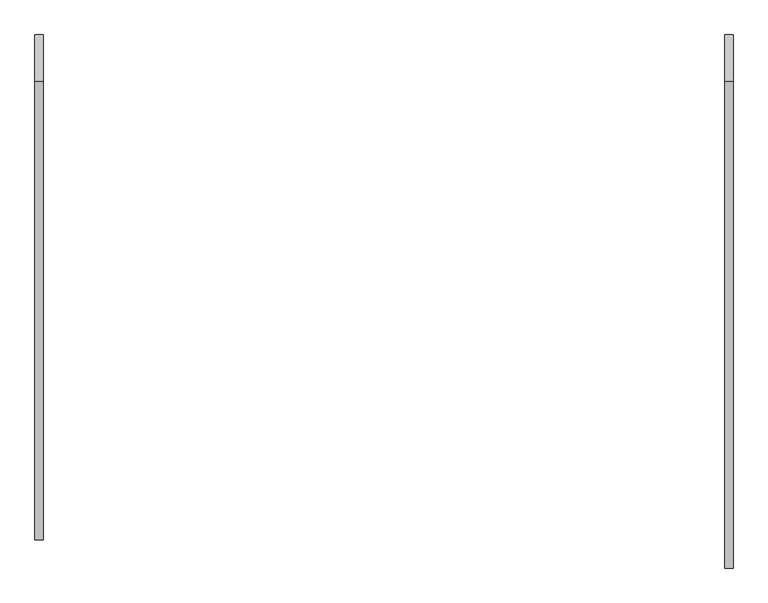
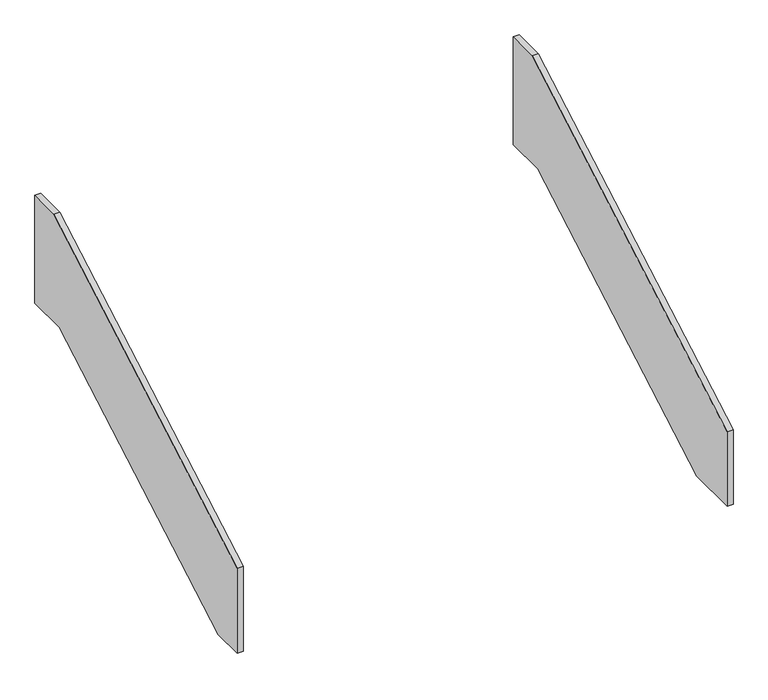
"""IFC4 building model written with IfcOpenShell, lengths in millimetres: beam geometry, limon escalier rdc 2 : limon escalier rdc 2."""

from ifc_helpers import new_model, si_unit, frame, origin, place, context, project, spatial, polyline, outline, extrude, source, transform, mapped, element, save


def beam_d13c2192(model_context):
    return source(origin(), model_context, "Body", "SweptSolid", [
        extrude(outline(polyline([(2099.1910408, 2960.0), (2182.0685723, 2960.0), (2182.0685723, 2670.0), (2075.4265057, 2670.0), (1375.4265057, 2270.0), (1292.0685723, 2270.0), (1292.0685723, 2498.7871608), (2099.1910408, 2960.0)])), frame((10678.2466393, 0.0, 0.0), z_axis=(1.0, 0.0, 0.0), x_axis=(0.0, 1.0, 0.0)), (0.0, 0.0, 1.0), 15.0),
        extrude(outline(polyline([(2099.1910408, 2960.0), (2182.0685723, 2960.0), (2182.0685723, 2670.0), (2075.4265057, 2670.0), (1375.4265057, 2270.0), (1242.0685723, 2270.0), (1242.0685723, 2470.2157323), (2099.1910408, 2960.0)])), frame((11893.2466393, 0.0, 0.0), z_axis=(1.0, 0.0, 0.0), x_axis=(0.0, 1.0, 0.0)), (0.0, 0.0, 1.0), 15.0),
    ])


if __name__ == "__main__":
    model = new_model("IFC4")
    model_context = context("Model", 3, world=origin())
    ifc_project = project(units=[si_unit("LENGTHUNIT", "METRE", prefix="MILLI")], contexts=[model_context])
    site = spatial("IfcSite", under=ifc_project)
    building = spatial("IfcBuilding", under=site)
    placement = place(None, origin())
    beam_shape = beam_d13c2192(model_context)
    element("IfcBeam", 1, ObjectType="limon escalier rdc 2 : limon escalier rdc 2", at=placement, inside=building, context=model_context, shape_type="MappedRepresentation", body=[
        mapped(beam_shape, transform((0.0, 0.0, 0.0), x_axis=(1.0, 0.0, 0.0), y_axis=(0.0, 1.0, 0.0), z_axis=(0.0, 0.0, 1.0))),
    ])
    save(model, "model.ifc")
